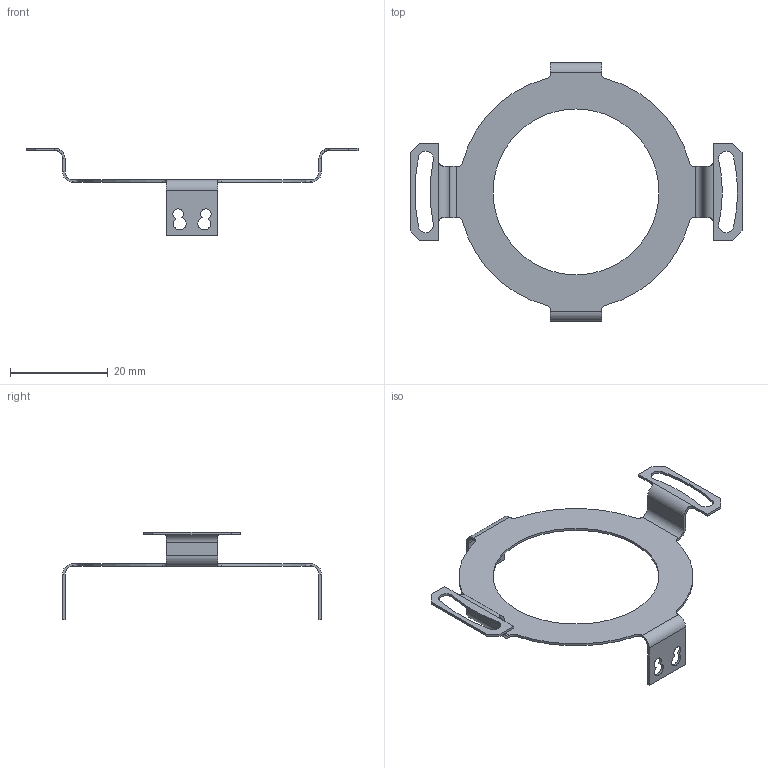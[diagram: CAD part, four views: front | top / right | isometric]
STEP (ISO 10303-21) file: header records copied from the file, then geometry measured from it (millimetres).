
FILE_DESCRIPTION (( 'STEP AP214' ), '1' );
FILE_NAME ('8.0010.4D00.0000.STEP', '2008-10-16T09:56:32', ( 'admin' ), ( 'Fritz Kübler GmbH' ), 'SwSTEP 2.0', 'SolidWorks 2008', '' );
FILE_SCHEMA (( 'AUTOMOTIVE_DESIGN' ));
Length unit declared in the file: millimetre
Products named in the file (1): 8.0010.4D00.0000
Bounding box: 68 x 53 x 18 mm (x, y, z)
Volume: 730.7 mm3; surface area: 3185.4 mm2
Topology: 1 solids, 1 shells, 112 faces, 282 edges, 172 vertices
Faces by surface type: plane 58, cylinder 54
Entity records: 3429 total; most frequent: CARTESIAN_POINT 639, DIRECTION 600, ORIENTED_EDGE 564, EDGE_CURVE 282, AXIS2_PLACEMENT_3D 213, LINE 174, VECTOR 174, VERTEX_POINT 172
